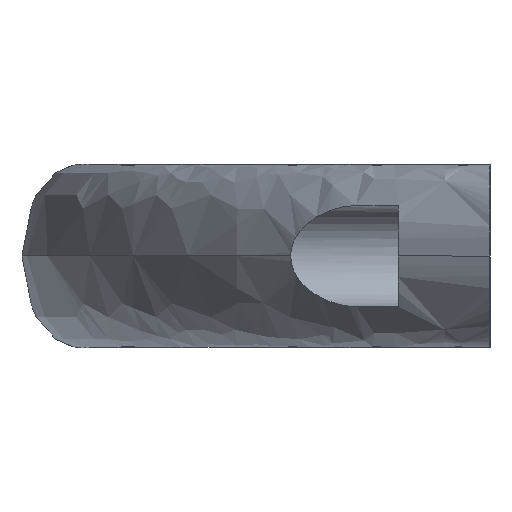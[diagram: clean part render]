
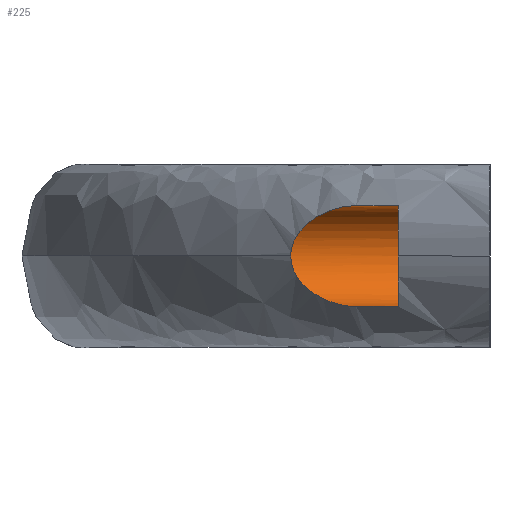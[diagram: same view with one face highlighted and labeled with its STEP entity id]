
A CAD part, left-side view. The second image highlights one B-rep face of the part: STEP entity #225.
In plain terms, the highlighted cylindrical face has radius 5.5 mm (diameter 11 mm), a partial arc.
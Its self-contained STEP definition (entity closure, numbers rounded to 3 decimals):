
#1 = ORIENTED_EDGE ( 'NONE', *, *, #240, .F. ) ;
#3 = EDGE_CURVE ( 'NONE', #224, #287, #580, .T. ) ;
#4 = ORIENTED_EDGE ( 'NONE', *, *, #185, .T. ) ;
#134 = VERTEX_POINT ( 'NONE', #485 ) ;
#185 = EDGE_CURVE ( 'NONE', #134, #297, #933, .T. ) ;
#197 = EDGE_CURVE ( 'NONE', #223, #224, #757, .T. ) ;
#222 = ORIENTED_EDGE ( 'NONE', *, *, #197, .F. ) ;
#223 = VERTEX_POINT ( 'NONE', #619 ) ;
#224 = VERTEX_POINT ( 'NONE', #452 ) ;
#225 = ADVANCED_FACE ( 'NONE', ( #620 ), #636, .F. ) ;
#226 = ORIENTED_EDGE ( 'NONE', *, *, #301, .T. ) ;
#240 = EDGE_CURVE ( 'NONE', #134, #223, #1010, .T. ) ;
#264 = ORIENTED_EDGE ( 'NONE', *, *, #3, .F. ) ;
#275 = EDGE_LOOP ( 'NONE', ( #222, #1, #4, #226, #264 ) ) ;
#287 = VERTEX_POINT ( 'NONE', #1009 ) ;
#297 = VERTEX_POINT ( 'NONE', #1229 ) ;
#301 = EDGE_CURVE ( 'NONE', #297, #287, #1576, .T. ) ;
#452 = CARTESIAN_POINT ( 'NONE',  ( -80., 10., -5.5 ) ) ;
#485 = CARTESIAN_POINT ( 'NONE',  ( -80., 14.621, 5.5 ) ) ;
#563 = DIRECTION ( 'NONE',  ( 0., 0., -1. ) ) ;
#576 = CARTESIAN_POINT ( 'NONE',  ( -80., 0., 0. ) ) ;
#578 = DIRECTION ( 'NONE',  ( 0., -1., 0. ) ) ;
#580 = LINE ( 'NONE', #586, #585 ) ;
#582 = DIRECTION ( 'NONE',  ( 0., 1., 0. ) ) ;
#585 = VECTOR ( 'NONE', #582, 1000. ) ;
#586 = CARTESIAN_POINT ( 'NONE',  ( -80., 14.621, -5.5 ) ) ;
#619 = CARTESIAN_POINT ( 'NONE',  ( -80., 10., 5.5 ) ) ;
#620 = FACE_OUTER_BOUND ( 'NONE', #275, .T. ) ;
#621 = AXIS2_PLACEMENT_3D ( 'NONE', #576, #578, #563 ) ;
#636 = CYLINDRICAL_SURFACE ( 'NONE', #621, 5.5 ) ;
#734 = DIRECTION ( 'NONE',  ( 0., 0., -1. ) ) ;
#735 = DIRECTION ( 'NONE',  ( 0., 1., 0. ) ) ;
#736 = CARTESIAN_POINT ( 'NONE',  ( -80., 10., 0. ) ) ;
#737 = AXIS2_PLACEMENT_3D ( 'NONE', #736, #735, #734 ) ;
#757 = CIRCLE ( 'NONE', #737, 5.5 ) ;
#909 = CARTESIAN_POINT ( 'NONE',  ( -74.5, 21.706, 0. ) ) ;
#910 = CARTESIAN_POINT ( 'NONE',  ( -74.5, 21.706, 0.239 ) ) ;
#911 = CARTESIAN_POINT ( 'NONE',  ( -74.516, 21.684, 0.476 ) ) ;
#912 = CARTESIAN_POINT ( 'NONE',  ( -74.577, 21.599, 0.945 ) ) ;
#913 = CARTESIAN_POINT ( 'NONE',  ( -74.623, 21.534, 1.176 ) ) ;
#914 = CARTESIAN_POINT ( 'NONE',  ( -74.794, 21.293, 1.831 ) ) ;
#915 = CARTESIAN_POINT ( 'NONE',  ( -74.958, 21.063, 2.233 ) ) ;
#916 = CARTESIAN_POINT ( 'NONE',  ( -75.24, 20.67, 2.762 ) ) ;
#917 = CARTESIAN_POINT ( 'NONE',  ( -75.34, 20.53, 2.928 ) ) ;
#918 = CARTESIAN_POINT ( 'NONE',  ( -75.553, 20.235, 3.241 ) ) ;
#919 = CARTESIAN_POINT ( 'NONE',  ( -75.665, 20.08, 3.39 ) ) ;
#920 = CARTESIAN_POINT ( 'NONE',  ( -76.011, 19.604, 3.804 ) ) ;
#921 = CARTESIAN_POINT ( 'NONE',  ( -76.256, 19.27, 4.042 ) ) ;
#922 = CARTESIAN_POINT ( 'NONE',  ( -76.769, 18.579, 4.463 ) ) ;
#923 = CARTESIAN_POINT ( 'NONE',  ( -77.039, 18.221, 4.645 ) ) ;
#924 = CARTESIAN_POINT ( 'NONE',  ( -77.589, 17.505, 4.953 ) ) ;
#925 = CARTESIAN_POINT ( 'NONE',  ( -77.87, 17.145, 5.08 ) ) ;
#926 = CARTESIAN_POINT ( 'NONE',  ( -78.45, 16.423, 5.286 ) ) ;
#927 = CARTESIAN_POINT ( 'NONE',  ( -78.747, 16.061, 5.364 ) ) ;
#928 = CARTESIAN_POINT ( 'NONE',  ( -79.361, 15.337, 5.472 ) ) ;
#929 = CARTESIAN_POINT ( 'NONE',  ( -79.679, 14.974, 5.5 ) ) ;
#930 = CARTESIAN_POINT ( 'NONE',  ( -80., 14.621, 5.5 ) ) ;
#933 = B_SPLINE_CURVE_WITH_KNOTS ( 'NONE', 3,
 ( #930, #929, #928, #927, #926, #925, #924, #923, #922, #921, #920, #919, #918, #917, #916, #915, #914, #913, #912, #911, #910, #909 ),
 .UNSPECIFIED., .F., .F.,
 ( 4, 2, 2, 2, 2, 2, 2, 2, 2, 2, 4 ),
 ( 0.009, 0.01, 0.011, 0.013, 0.014, 0.016, 0.016, 0.017, 0.019, 0.019, 0.02 ),
 .UNSPECIFIED. ) ;
#1009 = CARTESIAN_POINT ( 'NONE',  ( -80., 14.621, -5.5 ) ) ;
#1010 = LINE ( 'NONE', #1067, #1046 ) ;
#1046 = VECTOR ( 'NONE', #1068, 1000. ) ;
#1067 = CARTESIAN_POINT ( 'NONE',  ( -80., 14.621, 5.5 ) ) ;
#1068 = DIRECTION ( 'NONE',  ( 0., -1., 0. ) ) ;
#1229 = CARTESIAN_POINT ( 'NONE',  ( -74.5, 21.706, 0. ) ) ;
#1554 = CARTESIAN_POINT ( 'NONE',  ( -80., 14.621, -5.5 ) ) ;
#1555 = CARTESIAN_POINT ( 'NONE',  ( -79.68, 14.972, -5.5 ) ) ;
#1556 = CARTESIAN_POINT ( 'NONE',  ( -79.368, 15.329, -5.472 ) ) ;
#1557 = CARTESIAN_POINT ( 'NONE',  ( -78.756, 16.05, -5.366 ) ) ;
#1558 = CARTESIAN_POINT ( 'NONE',  ( -78.455, 16.417, -5.288 ) ) ;
#1559 = CARTESIAN_POINT ( 'NONE',  ( -77.869, 17.146, -5.08 ) ) ;
#1560 = CARTESIAN_POINT ( 'NONE',  ( -77.587, 17.508, -4.952 ) ) ;
#1561 = CARTESIAN_POINT ( 'NONE',  ( -77.039, 18.222, -4.645 ) ) ;
#1562 = CARTESIAN_POINT ( 'NONE',  ( -76.773, 18.574, -4.466 ) ) ;
#1563 = CARTESIAN_POINT ( 'NONE',  ( -76.261, 19.263, -4.047 ) ) ;
#1564 = CARTESIAN_POINT ( 'NONE',  ( -76.012, 19.602, -3.805 ) ) ;
#1565 = CARTESIAN_POINT ( 'NONE',  ( -75.553, 20.234, -3.256 ) ) ;
#1566 = CARTESIAN_POINT ( 'NONE',  ( -75.339, 20.531, -2.947 ) ) ;
#1567 = CARTESIAN_POINT ( 'NONE',  ( -74.958, 21.063, -2.234 ) ) ;
#1568 = CARTESIAN_POINT ( 'NONE',  ( -74.798, 21.288, -1.843 ) ) ;
#1569 = CARTESIAN_POINT ( 'NONE',  ( -74.623, 21.533, -1.18 ) ) ;
#1570 = CARTESIAN_POINT ( 'NONE',  ( -74.578, 21.597, -0.952 ) ) ;
#1571 = CARTESIAN_POINT ( 'NONE',  ( -74.516, 21.683, -0.484 ) ) ;
#1574 = CARTESIAN_POINT ( 'NONE',  ( -74.5, 21.706, -0.24 ) ) ;
#1575 = CARTESIAN_POINT ( 'NONE',  ( -74.5, 21.706, 0. ) ) ;
#1576 = B_SPLINE_CURVE_WITH_KNOTS ( 'NONE', 3,
 ( #1575, #1574, #1571, #1570, #1569, #1568, #1567, #1566, #1565, #1564, #1563, #1562, #1561, #1560, #1559, #1558, #1557, #1556, #1555, #1554 ),
 .UNSPECIFIED., .F., .F.,
 ( 4, 2, 2, 2, 2, 2, 2, 2, 2, 4 ),
 ( 0.02, 0.021, 0.021, 0.023, 0.024, 0.026, 0.027, 0.029, 0.03, 0.031 ),
 .UNSPECIFIED. ) ;
